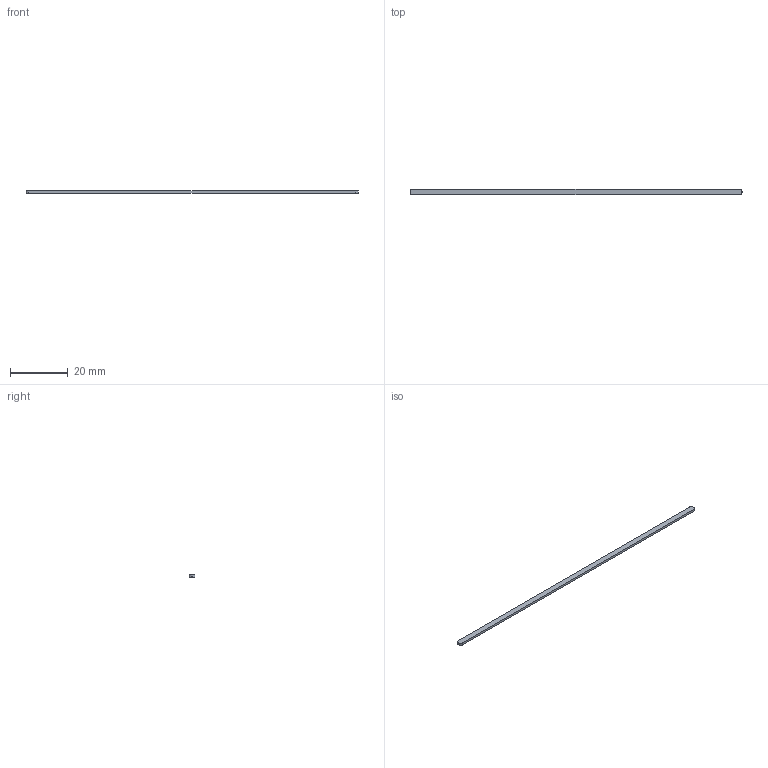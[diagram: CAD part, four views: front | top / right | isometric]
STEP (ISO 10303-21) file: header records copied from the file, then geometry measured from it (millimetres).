
FILE_DESCRIPTION(('Open CASCADE Model'),'2;1');
FILE_NAME('Open CASCADE Shape Model','2026-10-18T19:44:56',('Author'),( 'Open CASCADE'),'Open CASCADE STEP processor 7.9','Open CASCADE 7.9' ,'Unknown');
FILE_SCHEMA(('AUTOMOTIVE_DESIGN { 1 0 10303 214 1 1 1 1 }'));
Length unit declared in the file: millimetre
Products named in the file (1): Open CASCADE STEP translator 7.9 4
Bounding box: 114.6 x 2 x 0.8 mm (x, y, z)
Volume: 182.8 mm3; surface area: 642.3 mm2
Topology: 1 solids, 1 shells, 10 faces, 24 edges, 16 vertices
Faces by surface type: plane 6, cylinder 4
Entity records: 630 total; most frequent: CARTESIAN_POINT 123, DIRECTION 98, LINE 56, VECTOR 56, ORIENTED_EDGE 48, PCURVE 48, DEFINITIONAL_REPRESENTATION 48, EDGE_CURVE 24
